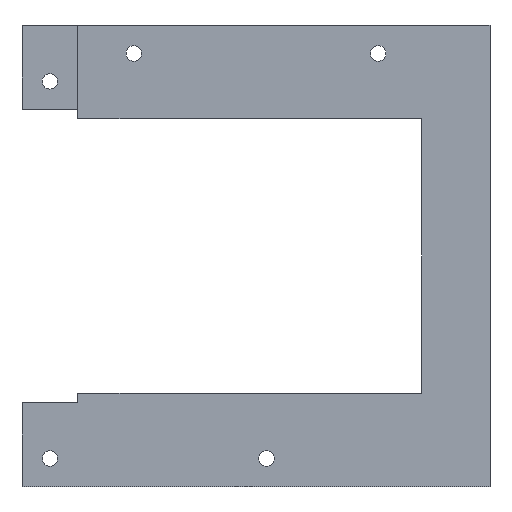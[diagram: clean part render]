
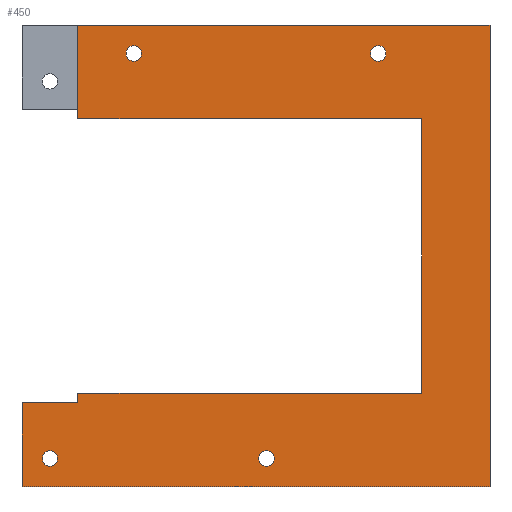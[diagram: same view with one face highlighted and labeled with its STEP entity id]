
A CAD part, front view. The second image highlights one B-rep face of the part: STEP entity #450.
In plain terms, the highlighted planar face has unit normal (0, -1, 0).
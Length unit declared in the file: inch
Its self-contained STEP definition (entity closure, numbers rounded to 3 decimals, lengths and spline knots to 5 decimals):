
#1=CARTESIAN_POINT('',(0.25,0.,-3.875));
#2=DIRECTION('',(0.,1.,0.));
#3=DIRECTION('',(1.,0.,0.));
#4=AXIS2_PLACEMENT_3D('',#1,#2,#3);
#6=CARTESIAN_POINT('',(0.25,0.,-3.875));
#7=DIRECTION('',(0.,1.,0.));
#8=DIRECTION('',(-1.,0.,0.));
#9=AXIS2_PLACEMENT_3D('',#6,#7,#8);
#11=DIRECTION('',(1.,0.,0.));
#12=VECTOR('',#11,3.6875);
#13=CARTESIAN_POINT('',(0.5,0.,0.));
#14=LINE('',#13,#12);
#15=DIRECTION('',(0.,0.,-1.));
#16=VECTOR('',#15,4.125);
#17=CARTESIAN_POINT('',(4.1875,0.,0.));
#18=LINE('',#17,#16);
#19=DIRECTION('',(-1.,0.,0.));
#20=VECTOR('',#19,4.1875);
#21=CARTESIAN_POINT('',(4.1875,0.,-4.125));
#22=LINE('',#21,#20);
#23=DIRECTION('',(0.,0.,1.));
#24=VECTOR('',#23,0.75);
#25=CARTESIAN_POINT('',(0.,0.,-4.125));
#26=LINE('',#25,#24);
#27=DIRECTION('',(1.,0.,0.));
#28=VECTOR('',#27,0.5);
#29=CARTESIAN_POINT('',(0.,0.,-3.375));
#30=LINE('',#29,#28);
#31=DIRECTION('',(0.,0.,-1.));
#32=VECTOR('',#31,0.08331);
#33=CARTESIAN_POINT('',(0.5,0.,-3.29169));
#34=LINE('',#33,#32);
#35=DIRECTION('',(0.,0.,-1.));
#36=VECTOR('',#35,2.45838);
#37=CARTESIAN_POINT('',(3.57786,0.,-0.83331));
#38=LINE('',#37,#36);
#39=DIRECTION('',(1.,0.,0.));
#40=VECTOR('',#39,3.07786);
#41=CARTESIAN_POINT('',(0.5,0.,-0.83331));
#42=LINE('',#41,#40);
#43=CARTESIAN_POINT('',(1.,0.,-0.25));
#44=DIRECTION('',(0.,1.,0.));
#45=DIRECTION('',(1.,0.,0.));
#46=AXIS2_PLACEMENT_3D('',#43,#44,#45);
#48=CARTESIAN_POINT('',(1.,0.,-0.25));
#49=DIRECTION('',(0.,1.,0.));
#50=DIRECTION('',(-1.,0.,0.));
#51=AXIS2_PLACEMENT_3D('',#48,#49,#50);
#53=CARTESIAN_POINT('',(2.1875,0.,-3.875));
#54=DIRECTION('',(0.,1.,0.));
#55=DIRECTION('',(1.,0.,0.));
#56=AXIS2_PLACEMENT_3D('',#53,#54,#55);
#58=CARTESIAN_POINT('',(2.1875,0.,-3.875));
#59=DIRECTION('',(0.,1.,0.));
#60=DIRECTION('',(-1.,0.,0.));
#61=AXIS2_PLACEMENT_3D('',#58,#59,#60);
#63=CARTESIAN_POINT('',(3.1875,0.,-0.25));
#64=DIRECTION('',(0.,1.,0.));
#65=DIRECTION('',(1.,0.,0.));
#66=AXIS2_PLACEMENT_3D('',#63,#64,#65);
#68=CARTESIAN_POINT('',(3.1875,0.,-0.25));
#69=DIRECTION('',(0.,1.,0.));
#70=DIRECTION('',(-1.,0.,0.));
#71=AXIS2_PLACEMENT_3D('',#68,#69,#70);
#94=DIRECTION('',(0.,0.,-1.));
#95=VECTOR('',#94,0.83331);
#96=CARTESIAN_POINT('',(0.5,0.,0.));
#97=LINE('',#96,#95);
#268=DIRECTION('',(1.,0.,0.));
#269=VECTOR('',#268,3.07786);
#270=CARTESIAN_POINT('',(0.5,0.,-3.29169));
#271=LINE('',#270,#269);
#305=CARTESIAN_POINT('',(4.1875,0.,0.));
#306=CARTESIAN_POINT('',(4.1875,0.,-4.125));
#307=VERTEX_POINT('',#305);
#308=VERTEX_POINT('',#306);
#309=CARTESIAN_POINT('',(0.,0.,-4.125));
#310=VERTEX_POINT('',#309);
#321=CARTESIAN_POINT('',(3.57786,0.,-3.29169));
#322=VERTEX_POINT('',#321);
#323=CARTESIAN_POINT('',(3.57786,0.,-0.83331));
#324=VERTEX_POINT('',#323);
#325=CARTESIAN_POINT('',(0.319,0.,-3.875));
#326=CARTESIAN_POINT('',(0.181,0.,-3.875));
#327=VERTEX_POINT('',#325);
#328=VERTEX_POINT('',#326);
#329=CARTESIAN_POINT('',(0.5,0.,-3.29169));
#330=CARTESIAN_POINT('',(0.5,0.,-3.375));
#331=VERTEX_POINT('',#329);
#332=VERTEX_POINT('',#330);
#333=CARTESIAN_POINT('',(0.,0.,-3.375));
#334=VERTEX_POINT('',#333);
#343=CARTESIAN_POINT('',(0.5,0.,-0.83331));
#344=VERTEX_POINT('',#343);
#349=CARTESIAN_POINT('',(0.5,0.,0.));
#351=VERTEX_POINT('',#349);
#375=CARTESIAN_POINT('',(1.069,0.,-0.25));
#376=CARTESIAN_POINT('',(0.931,0.,-0.25));
#377=VERTEX_POINT('',#375);
#378=VERTEX_POINT('',#376);
#379=CARTESIAN_POINT('',(2.2565,0.,-3.875));
#380=CARTESIAN_POINT('',(2.1185,0.,-3.875));
#381=VERTEX_POINT('',#379);
#382=VERTEX_POINT('',#380);
#391=CARTESIAN_POINT('',(3.2565,0.,-0.25));
#392=CARTESIAN_POINT('',(3.1185,0.,-0.25));
#393=VERTEX_POINT('',#391);
#394=VERTEX_POINT('',#392);
#399=CARTESIAN_POINT('',(0.,0.,0.));
#400=DIRECTION('',(0.,1.,0.));
#401=DIRECTION('',(1.,0.,0.));
#402=AXIS2_PLACEMENT_3D('',#399,#400,#401);
#403=PLANE('',#402);
#405=ORIENTED_EDGE('',*,*,#404,.F.);
#407=ORIENTED_EDGE('',*,*,#406,.T.);
#409=ORIENTED_EDGE('',*,*,#408,.T.);
#411=ORIENTED_EDGE('',*,*,#410,.T.);
#413=ORIENTED_EDGE('',*,*,#412,.T.);
#415=ORIENTED_EDGE('',*,*,#414,.T.);
#417=ORIENTED_EDGE('',*,*,#416,.F.);
#419=ORIENTED_EDGE('',*,*,#418,.T.);
#421=ORIENTED_EDGE('',*,*,#420,.F.);
#423=ORIENTED_EDGE('',*,*,#422,.F.);
#424=EDGE_LOOP('',(#405,#407,#409,#411,#413,#415,#417,#419,#421,#423));
#425=FACE_OUTER_BOUND('',#424,.F.);
#427=ORIENTED_EDGE('',*,*,#426,.F.);
#429=ORIENTED_EDGE('',*,*,#428,.F.);
#430=EDGE_LOOP('',(#427,#429));
#431=FACE_BOUND('',#430,.F.);
#433=ORIENTED_EDGE('',*,*,#432,.F.);
#435=ORIENTED_EDGE('',*,*,#434,.F.);
#436=EDGE_LOOP('',(#433,#435));
#437=FACE_BOUND('',#436,.F.);
#439=ORIENTED_EDGE('',*,*,#438,.F.);
#441=ORIENTED_EDGE('',*,*,#440,.F.);
#442=EDGE_LOOP('',(#439,#441));
#443=FACE_BOUND('',#442,.F.);
#445=ORIENTED_EDGE('',*,*,#444,.F.);
#447=ORIENTED_EDGE('',*,*,#446,.F.);
#448=EDGE_LOOP('',(#445,#447));
#449=FACE_BOUND('',#448,.F.);
#450=ADVANCED_FACE('',(#425,#431,#437,#443,#449),#403,.F.);
#5=CIRCLE('',#4,0.069);
#10=CIRCLE('',#9,0.069);
#47=CIRCLE('',#46,0.069);
#52=CIRCLE('',#51,0.069);
#57=CIRCLE('',#56,0.069);
#62=CIRCLE('',#61,0.069);
#67=CIRCLE('',#66,0.069);
#72=CIRCLE('',#71,0.069);
#404=EDGE_CURVE('',#351,#344,#97,.T.);
#406=EDGE_CURVE('',#351,#307,#14,.T.);
#408=EDGE_CURVE('',#307,#308,#18,.T.);
#410=EDGE_CURVE('',#308,#310,#22,.T.);
#412=EDGE_CURVE('',#310,#334,#26,.T.);
#414=EDGE_CURVE('',#334,#332,#30,.T.);
#416=EDGE_CURVE('',#331,#332,#34,.T.);
#418=EDGE_CURVE('',#331,#322,#271,.T.);
#420=EDGE_CURVE('',#324,#322,#38,.T.);
#422=EDGE_CURVE('',#344,#324,#42,.T.);
#426=EDGE_CURVE('',#327,#328,#5,.T.);
#428=EDGE_CURVE('',#328,#327,#10,.T.);
#432=EDGE_CURVE('',#377,#378,#47,.T.);
#434=EDGE_CURVE('',#378,#377,#52,.T.);
#438=EDGE_CURVE('',#381,#382,#57,.T.);
#440=EDGE_CURVE('',#382,#381,#62,.T.);
#444=EDGE_CURVE('',#393,#394,#67,.T.);
#446=EDGE_CURVE('',#394,#393,#72,.T.);
